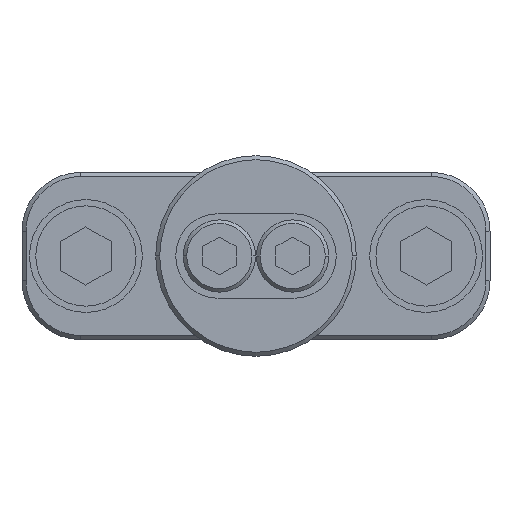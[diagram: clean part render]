
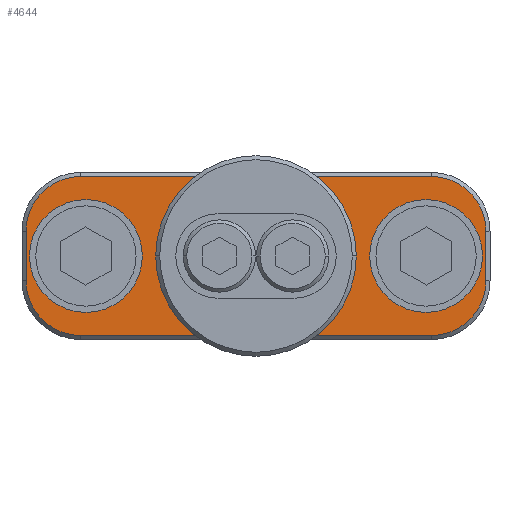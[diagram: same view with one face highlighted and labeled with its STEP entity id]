
A CAD part, front view. The second image highlights one B-rep face of the part: STEP entity #4644.
In plain terms, the highlighted planar face has unit normal (0, -1, 0).
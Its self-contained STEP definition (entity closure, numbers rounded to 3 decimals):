
#4092=CARTESIAN_POINT('',(-0.02,1.68,0.));
#4093=VERTEX_POINT('',#4092);
#4109=CARTESIAN_POINT('',(-0.068,1.68,-0.095));
#4110=VERTEX_POINT('',#4109);
#4117=CARTESIAN_POINT('',(-0.137,1.68,0.));
#4118=DIRECTION('',(0.0,1.0,0.0));
#4119=DIRECTION('',(1.0,0.0,0.0));
#4120=AXIS2_PLACEMENT_3D('',#4117,#4118,#4119);
#4121=CIRCLE('',#4120,0.118);
#4122=EDGE_CURVE('',#4093,#4110,#4121,.T.);
#4132=CARTESIAN_POINT('',(-0.255,1.68,0.));
#4133=VERTEX_POINT('',#4132);
#4142=CARTESIAN_POINT('',(-0.206,1.68,-0.095));
#4143=VERTEX_POINT('',#4142);
#4144=CARTESIAN_POINT('',(-0.137,1.68,0.));
#4145=DIRECTION('',(0.0,1.0,0.0));
#4146=DIRECTION('',(1.0,0.0,0.0));
#4147=AXIS2_PLACEMENT_3D('',#4144,#4145,#4146);
#4148=CIRCLE('',#4147,0.118);
#4149=EDGE_CURVE('',#4143,#4133,#4148,.T.);
#4225=CARTESIAN_POINT('',(-0.636,1.68,-0.211));
#4226=VERTEX_POINT('',#4225);
#4235=CARTESIAN_POINT('',(-0.636,1.68,0.211));
#4236=VERTEX_POINT('',#4235);
#4237=CARTESIAN_POINT('',(-0.636,1.68,0.));
#4238=DIRECTION('',(0.0,1.0,0.0));
#4239=DIRECTION('',(0.0,0.0,-1.0));
#4240=AXIS2_PLACEMENT_3D('',#4237,#4238,#4239);
#4241=CIRCLE('',#4240,0.211);
#4242=EDGE_CURVE('',#4236,#4226,#4241,.T.);
#4267=CARTESIAN_POINT('',(0.636,1.68,-0.211));
#4268=VERTEX_POINT('',#4267);
#4277=CARTESIAN_POINT('',(0.636,1.68,0.211));
#4278=VERTEX_POINT('',#4277);
#4279=CARTESIAN_POINT('',(0.636,1.68,0.));
#4280=DIRECTION('',(0.0,1.0,0.0));
#4281=DIRECTION('',(0.0,0.0,-1.0));
#4282=AXIS2_PLACEMENT_3D('',#4279,#4280,#4281);
#4283=CIRCLE('',#4282,0.211);
#4284=EDGE_CURVE('',#4278,#4268,#4283,.T.);
#4381=CARTESIAN_POINT('',(0.255,1.68,0.));
#4382=VERTEX_POINT('',#4381);
#4391=CARTESIAN_POINT('',(0.206,1.68,0.095));
#4392=VERTEX_POINT('',#4391);
#4393=CARTESIAN_POINT('',(0.137,1.68,0.));
#4394=DIRECTION('',(0.0,1.0,0.0));
#4395=DIRECTION('',(-1.0,0.0,0.0));
#4396=AXIS2_PLACEMENT_3D('',#4393,#4394,#4395);
#4397=CIRCLE('',#4396,0.118);
#4398=EDGE_CURVE('',#4392,#4382,#4397,.T.);
#4446=CARTESIAN_POINT('',(0.02,1.68,0.));
#4447=VERTEX_POINT('',#4446);
#4463=CARTESIAN_POINT('',(0.068,1.68,0.095));
#4464=VERTEX_POINT('',#4463);
#4471=CARTESIAN_POINT('',(0.137,1.68,0.));
#4472=DIRECTION('',(0.0,1.0,0.0));
#4473=DIRECTION('',(-1.0,0.0,0.0));
#4474=AXIS2_PLACEMENT_3D('',#4471,#4472,#4473);
#4475=CIRCLE('',#4474,0.118);
#4476=EDGE_CURVE('',#4447,#4464,#4475,.T.);
#4481=CARTESIAN_POINT('',(-0.875,1.68,0.313));
#4482=DIRECTION('',(0.0,1.0,0.0));
#4483=DIRECTION('',(1.0,0.0,0.0));
#4484=AXIS2_PLACEMENT_3D('',#4481,#4482,#4483);
#4485=PLANE('',#4484);
#4486=CARTESIAN_POINT('',(-0.86,1.68,-0.093));
#4487=VERTEX_POINT('',#4486);
#4488=CARTESIAN_POINT('',(-0.655,1.68,-0.298));
#4489=VERTEX_POINT('',#4488);
#4490=CARTESIAN_POINT('',(-0.655,1.68,-0.093));
#4491=DIRECTION('',(0.0,1.0,0.0));
#4492=DIRECTION('',(1.0,0.0,0.0));
#4493=AXIS2_PLACEMENT_3D('',#4490,#4491,#4492);
#4494=CIRCLE('',#4493,0.205);
#4495=EDGE_CURVE('',#4487,#4489,#4494,.F.);
#4496=ORIENTED_EDGE('',*,*,#4495,.T.);
#4497=CARTESIAN_POINT('',(0.655,1.68,-0.298));
#4498=VERTEX_POINT('',#4497);
#4499=CARTESIAN_POINT('',(-0.655,1.68,-0.298));
#4500=DIRECTION('',(1.0,0.0,0.0));
#4501=VECTOR('',#4500,1.31);
#4502=LINE('',#4499,#4501);
#4503=EDGE_CURVE('',#4489,#4498,#4502,.T.);
#4504=ORIENTED_EDGE('',*,*,#4503,.T.);
#4505=CARTESIAN_POINT('',(0.86,1.68,-0.093));
#4506=VERTEX_POINT('',#4505);
#4507=CARTESIAN_POINT('',(0.655,1.68,-0.093));
#4508=DIRECTION('',(0.0,1.0,0.0));
#4509=DIRECTION('',(1.0,0.0,0.0));
#4510=AXIS2_PLACEMENT_3D('',#4507,#4508,#4509);
#4511=CIRCLE('',#4510,0.205);
#4512=EDGE_CURVE('',#4498,#4506,#4511,.F.);
#4513=ORIENTED_EDGE('',*,*,#4512,.T.);
#4514=CARTESIAN_POINT('',(0.86,1.68,0.093));
#4515=VERTEX_POINT('',#4514);
#4516=CARTESIAN_POINT('',(0.86,1.68,-0.093));
#4517=DIRECTION('',(0.0,0.0,1.0));
#4518=VECTOR('',#4517,0.185);
#4519=LINE('',#4516,#4518);
#4520=EDGE_CURVE('',#4506,#4515,#4519,.T.);
#4521=ORIENTED_EDGE('',*,*,#4520,.T.);
#4522=CARTESIAN_POINT('',(0.655,1.68,0.298));
#4523=VERTEX_POINT('',#4522);
#4524=CARTESIAN_POINT('',(0.655,1.68,0.093));
#4525=DIRECTION('',(0.0,1.0,0.0));
#4526=DIRECTION('',(1.0,0.0,0.0));
#4527=AXIS2_PLACEMENT_3D('',#4524,#4525,#4526);
#4528=CIRCLE('',#4527,0.205);
#4529=EDGE_CURVE('',#4515,#4523,#4528,.F.);
#4530=ORIENTED_EDGE('',*,*,#4529,.T.);
#4531=CARTESIAN_POINT('',(-0.655,1.68,0.298));
#4532=VERTEX_POINT('',#4531);
#4533=CARTESIAN_POINT('',(0.655,1.68,0.298));
#4534=DIRECTION('',(-1.0,0.0,0.0));
#4535=VECTOR('',#4534,1.31);
#4536=LINE('',#4533,#4535);
#4537=EDGE_CURVE('',#4523,#4532,#4536,.T.);
#4538=ORIENTED_EDGE('',*,*,#4537,.T.);
#4539=CARTESIAN_POINT('',(-0.86,1.68,0.093));
#4540=VERTEX_POINT('',#4539);
#4541=CARTESIAN_POINT('',(-0.655,1.68,0.093));
#4542=DIRECTION('',(0.0,1.0,0.0));
#4543=DIRECTION('',(1.0,0.0,0.0));
#4544=AXIS2_PLACEMENT_3D('',#4541,#4542,#4543);
#4545=CIRCLE('',#4544,0.205);
#4546=EDGE_CURVE('',#4532,#4540,#4545,.F.);
#4547=ORIENTED_EDGE('',*,*,#4546,.T.);
#4548=CARTESIAN_POINT('',(-0.86,1.68,0.093));
#4549=DIRECTION('',(0.0,0.0,-1.0));
#4550=VECTOR('',#4549,0.185);
#4551=LINE('',#4548,#4550);
#4552=EDGE_CURVE('',#4540,#4487,#4551,.T.);
#4553=ORIENTED_EDGE('',*,*,#4552,.T.);
#4554=EDGE_LOOP('',(#4496,#4504,#4513,#4521,#4530,#4538,#4547,#4553));
#4555=FACE_OUTER_BOUND('',#4554,.T.);
#4556=CARTESIAN_POINT('',(0.206,1.68,-0.095));
#4557=VERTEX_POINT('',#4556);
#4558=CARTESIAN_POINT('',(0.068,1.68,-0.095));
#4559=VERTEX_POINT('',#4558);
#4560=CARTESIAN_POINT('',(0.206,1.68,-0.095));
#4561=DIRECTION('',(-1.0,0.0,0.0));
#4562=VECTOR('',#4561,0.138);
#4563=LINE('',#4560,#4562);
#4564=EDGE_CURVE('',#4557,#4559,#4563,.T.);
#4565=ORIENTED_EDGE('',*,*,#4564,.T.);
#4566=CARTESIAN_POINT('',(0.137,1.68,0.));
#4567=DIRECTION('',(0.0,1.0,0.0));
#4568=DIRECTION('',(-1.0,0.0,0.0));
#4569=AXIS2_PLACEMENT_3D('',#4566,#4567,#4568);
#4570=CIRCLE('',#4569,0.118);
#4571=EDGE_CURVE('',#4559,#4447,#4570,.T.);
#4572=ORIENTED_EDGE('',*,*,#4571,.T.);
#4573=ORIENTED_EDGE('',*,*,#4476,.T.);
#4574=CARTESIAN_POINT('',(0.068,1.68,0.095));
#4575=DIRECTION('',(1.0,0.0,0.0));
#4576=VECTOR('',#4575,0.138);
#4577=LINE('',#4574,#4576);
#4578=EDGE_CURVE('',#4464,#4392,#4577,.T.);
#4579=ORIENTED_EDGE('',*,*,#4578,.T.);
#4580=ORIENTED_EDGE('',*,*,#4398,.T.);
#4581=CARTESIAN_POINT('',(0.137,1.68,0.));
#4582=DIRECTION('',(0.0,1.0,0.0));
#4583=DIRECTION('',(-1.0,0.0,0.0));
#4584=AXIS2_PLACEMENT_3D('',#4581,#4582,#4583);
#4585=CIRCLE('',#4584,0.118);
#4586=EDGE_CURVE('',#4382,#4557,#4585,.T.);
#4587=ORIENTED_EDGE('',*,*,#4586,.T.);
#4588=EDGE_LOOP('',(#4565,#4572,#4573,#4579,#4580,#4587));
#4589=FACE_BOUND('',#4588,.T.);
#4590=CARTESIAN_POINT('',(-0.068,1.68,-0.095));
#4591=DIRECTION('',(-1.0,0.0,0.0));
#4592=VECTOR('',#4591,0.138);
#4593=LINE('',#4590,#4592);
#4594=EDGE_CURVE('',#4110,#4143,#4593,.T.);
#4595=ORIENTED_EDGE('',*,*,#4594,.T.);
#4596=ORIENTED_EDGE('',*,*,#4149,.T.);
#4597=CARTESIAN_POINT('',(-0.206,1.68,0.095));
#4598=VERTEX_POINT('',#4597);
#4599=CARTESIAN_POINT('',(-0.137,1.68,0.));
#4600=DIRECTION('',(0.0,1.0,0.0));
#4601=DIRECTION('',(1.0,0.0,0.0));
#4602=AXIS2_PLACEMENT_3D('',#4599,#4600,#4601);
#4603=CIRCLE('',#4602,0.118);
#4604=EDGE_CURVE('',#4133,#4598,#4603,.T.);
#4605=ORIENTED_EDGE('',*,*,#4604,.T.);
#4606=CARTESIAN_POINT('',(-0.068,1.68,0.095));
#4607=VERTEX_POINT('',#4606);
#4608=CARTESIAN_POINT('',(-0.206,1.68,0.095));
#4609=DIRECTION('',(1.0,0.0,0.0));
#4610=VECTOR('',#4609,0.138);
#4611=LINE('',#4608,#4610);
#4612=EDGE_CURVE('',#4598,#4607,#4611,.T.);
#4613=ORIENTED_EDGE('',*,*,#4612,.T.);
#4614=CARTESIAN_POINT('',(-0.137,1.68,0.));
#4615=DIRECTION('',(0.0,1.0,0.0));
#4616=DIRECTION('',(1.0,0.0,0.0));
#4617=AXIS2_PLACEMENT_3D('',#4614,#4615,#4616);
#4618=CIRCLE('',#4617,0.118);
#4619=EDGE_CURVE('',#4607,#4093,#4618,.T.);
#4620=ORIENTED_EDGE('',*,*,#4619,.T.);
#4621=ORIENTED_EDGE('',*,*,#4122,.T.);
#4622=EDGE_LOOP('',(#4595,#4596,#4605,#4613,#4620,#4621));
#4623=FACE_BOUND('',#4622,.T.);
#4624=ORIENTED_EDGE('',*,*,#4284,.T.);
#4625=CARTESIAN_POINT('',(0.636,1.68,0.));
#4626=DIRECTION('',(0.0,1.0,0.0));
#4627=DIRECTION('',(0.0,0.0,-1.0));
#4628=AXIS2_PLACEMENT_3D('',#4625,#4626,#4627);
#4629=CIRCLE('',#4628,0.211);
#4630=EDGE_CURVE('',#4268,#4278,#4629,.T.);
#4631=ORIENTED_EDGE('',*,*,#4630,.T.);
#4632=EDGE_LOOP('',(#4624,#4631));
#4633=FACE_BOUND('',#4632,.T.);
#4634=ORIENTED_EDGE('',*,*,#4242,.T.);
#4635=CARTESIAN_POINT('',(-0.636,1.68,0.));
#4636=DIRECTION('',(0.0,1.0,0.0));
#4637=DIRECTION('',(0.0,0.0,-1.0));
#4638=AXIS2_PLACEMENT_3D('',#4635,#4636,#4637);
#4639=CIRCLE('',#4638,0.211);
#4640=EDGE_CURVE('',#4226,#4236,#4639,.T.);
#4641=ORIENTED_EDGE('',*,*,#4640,.T.);
#4642=EDGE_LOOP('',(#4634,#4641));
#4643=FACE_BOUND('',#4642,.T.);
#4644=ADVANCED_FACE('',(#4555,#4589,#4623,#4633,#4643),#4485,.F.);
